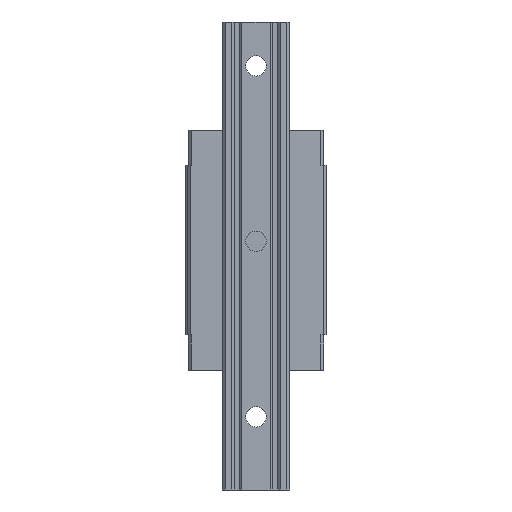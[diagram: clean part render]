
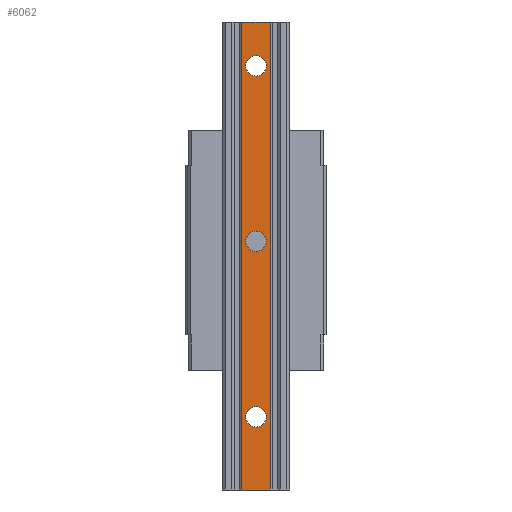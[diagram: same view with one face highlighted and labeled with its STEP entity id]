
A CAD part, front view. The second image highlights one B-rep face of the part: STEP entity #6062.
In plain terms, the highlighted planar face has unit normal (0, -1, 0).
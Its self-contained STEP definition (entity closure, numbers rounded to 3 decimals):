
#1564 = DIRECTION ( 'NONE',  ( 0., 0., -1. ) ) ;
#1723 = CARTESIAN_POINT ( 'NONE',  ( 0., 0., -15. ) ) ;
#1875 = CIRCLE ( 'NONE', #32925, 3.5 ) ;
#1886 = DIRECTION ( 'NONE',  ( 0., 1., 0. ) ) ;
#1894 = DIRECTION ( 'NONE',  ( 0., 1., 0. ) ) ;
#1962 = ORIENTED_EDGE ( 'NONE', *, *, #6837, .T. ) ;
#2737 = VERTEX_POINT ( 'NONE', #28780 ) ;
#2902 = LINE ( 'NONE', #8914, #3353 ) ;
#2904 = LINE ( 'NONE', #19501, #13066 ) ;
#3353 = VECTOR ( 'NONE', #6238, 1000. ) ;
#3800 = EDGE_CURVE ( 'NONE', #19065, #29581, #2902, .T. ) ;
#4192 = EDGE_LOOP ( 'NONE', ( #12989, #32254 ) ) ;
#4311 = EDGE_CURVE ( 'NONE', #15871, #28291, #14033, .T. ) ;
#4351 = CARTESIAN_POINT ( 'NONE',  ( 4.929, 0., -901.828 ) ) ;
#4678 = LINE ( 'NONE', #4351, #28873 ) ;
#4704 = EDGE_LOOP ( 'NONE', ( #1962, #27582 ) ) ;
#5040 = DIRECTION ( 'NONE',  ( 0., -1., 0. ) ) ;
#6062 = ADVANCED_FACE ( 'NONE', ( #34049, #29082, #17795, #18113 ), #31552, .T. ) ;
#6238 = DIRECTION ( 'NONE',  ( -1., 0., 0. ) ) ;
#6837 = EDGE_CURVE ( 'NONE', #28291, #15871, #8735, .T. ) ;
#7196 = DIRECTION ( 'NONE',  ( 0., 0., 1. ) ) ;
#7313 = EDGE_CURVE ( 'NONE', #25702, #23130, #10740, .T. ) ;
#7535 = CARTESIAN_POINT ( 'NONE',  ( 0., 0., -18.5 ) ) ;
#7967 = CARTESIAN_POINT ( 'NONE',  ( 0., 0., -135. ) ) ;
#8388 = EDGE_CURVE ( 'NONE', #2737, #23252, #1875, .T. ) ;
#8679 = EDGE_LOOP ( 'NONE', ( #18875, #11400, #16203, #24562 ) ) ;
#8735 = CIRCLE ( 'NONE', #25682, 3.5 ) ;
#8914 = CARTESIAN_POINT ( 'NONE',  ( 11.5, 0., 0. ) ) ;
#9653 = CARTESIAN_POINT ( 'NONE',  ( 0., 0., -75. ) ) ;
#10740 = LINE ( 'NONE', #21464, #13322 ) ;
#10792 = DIRECTION ( 'NONE',  ( 0., 0., 1. ) ) ;
#11029 = EDGE_CURVE ( 'NONE', #19150, #21947, #21491, .T. ) ;
#11400 = ORIENTED_EDGE ( 'NONE', *, *, #3800, .T. ) ;
#11473 = CARTESIAN_POINT ( 'NONE',  ( 0., 0., -131.5 ) ) ;
#11847 = CARTESIAN_POINT ( 'NONE',  ( -4.929, 0., -160. ) ) ;
#12073 = AXIS2_PLACEMENT_3D ( 'NONE', #29245, #5040, #1564 ) ;
#12797 = AXIS2_PLACEMENT_3D ( 'NONE', #1723, #1894, #20112 ) ;
#12989 = ORIENTED_EDGE ( 'NONE', *, *, #8388, .T. ) ;
#13066 = VECTOR ( 'NONE', #19296, 1000. ) ;
#13322 = VECTOR ( 'NONE', #29632, 1000. ) ;
#14033 = CIRCLE ( 'NONE', #34370, 3.5 ) ;
#15054 = EDGE_CURVE ( 'NONE', #29581, #25702, #2904, .T. ) ;
#15680 = CARTESIAN_POINT ( 'NONE',  ( 0., 0., -75. ) ) ;
#15871 = VERTEX_POINT ( 'NONE', #18598 ) ;
#16203 = ORIENTED_EDGE ( 'NONE', *, *, #15054, .T. ) ;
#16595 = CARTESIAN_POINT ( 'NONE',  ( -4.929, 0., 0. ) ) ;
#17037 = AXIS2_PLACEMENT_3D ( 'NONE', #18296, #20943, #31721 ) ;
#17795 = FACE_BOUND ( 'NONE', #4704, .T. ) ;
#17801 = DIRECTION ( 'NONE',  ( 0., 0., 1. ) ) ;
#18113 = FACE_OUTER_BOUND ( 'NONE', #8679, .T. ) ;
#18296 = CARTESIAN_POINT ( 'NONE',  ( 0., 0., -15. ) ) ;
#18353 = CARTESIAN_POINT ( 'NONE',  ( 0., 0., -135. ) ) ;
#18598 = CARTESIAN_POINT ( 'NONE',  ( 0., 0., -138.5 ) ) ;
#18875 = ORIENTED_EDGE ( 'NONE', *, *, #32119, .T. ) ;
#19065 = VERTEX_POINT ( 'NONE', #19583 ) ;
#19150 = VERTEX_POINT ( 'NONE', #7535 ) ;
#19296 = DIRECTION ( 'NONE',  ( 0., 0., -1. ) ) ;
#19395 = EDGE_LOOP ( 'NONE', ( #31534, #23046 ) ) ;
#19501 = CARTESIAN_POINT ( 'NONE',  ( -4.929, 0., -901.828 ) ) ;
#19583 = CARTESIAN_POINT ( 'NONE',  ( 4.929, 0., 0. ) ) ;
#19776 = CIRCLE ( 'NONE', #29939, 3.5 ) ;
#20112 = DIRECTION ( 'NONE',  ( 0., 0., 1. ) ) ;
#20700 = EDGE_CURVE ( 'NONE', #23252, #2737, #19776, .T. ) ;
#20943 = DIRECTION ( 'NONE',  ( 0., 1., 0. ) ) ;
#21464 = CARTESIAN_POINT ( 'NONE',  ( -11.5, 0., -160. ) ) ;
#21491 = CIRCLE ( 'NONE', #17037, 3.5 ) ;
#21527 = CARTESIAN_POINT ( 'NONE',  ( 0., 0., -11.5 ) ) ;
#21947 = VERTEX_POINT ( 'NONE', #21527 ) ;
#23046 = ORIENTED_EDGE ( 'NONE', *, *, #11029, .T. ) ;
#23130 = VERTEX_POINT ( 'NONE', #33581 ) ;
#23252 = VERTEX_POINT ( 'NONE', #23792 ) ;
#23792 = CARTESIAN_POINT ( 'NONE',  ( 0., 0., -78.5 ) ) ;
#23815 = DIRECTION ( 'NONE',  ( 0., 1., 0. ) ) ;
#24562 = ORIENTED_EDGE ( 'NONE', *, *, #7313, .T. ) ;
#25682 = AXIS2_PLACEMENT_3D ( 'NONE', #18353, #23815, #28790 ) ;
#25702 = VERTEX_POINT ( 'NONE', #11847 ) ;
#27582 = ORIENTED_EDGE ( 'NONE', *, *, #4311, .T. ) ;
#28291 = VERTEX_POINT ( 'NONE', #11473 ) ;
#28780 = CARTESIAN_POINT ( 'NONE',  ( 0., 0., -71.5 ) ) ;
#28790 = DIRECTION ( 'NONE',  ( 0., 0., 1. ) ) ;
#28873 = VECTOR ( 'NONE', #7196, 1000. ) ;
#29082 = FACE_BOUND ( 'NONE', #4192, .T. ) ;
#29245 = CARTESIAN_POINT ( 'NONE',  ( -11.5, 0., -901.828 ) ) ;
#29499 = DIRECTION ( 'NONE',  ( 0., 1., 0. ) ) ;
#29581 = VERTEX_POINT ( 'NONE', #16595 ) ;
#29632 = DIRECTION ( 'NONE',  ( 1., 0., 0. ) ) ;
#29939 = AXIS2_PLACEMENT_3D ( 'NONE', #9653, #30886, #33711 ) ;
#30886 = DIRECTION ( 'NONE',  ( 0., 1., 0. ) ) ;
#31395 = CIRCLE ( 'NONE', #12797, 3.5 ) ;
#31534 = ORIENTED_EDGE ( 'NONE', *, *, #34498, .T. ) ;
#31552 = PLANE ( 'NONE',  #12073 ) ;
#31721 = DIRECTION ( 'NONE',  ( 0., 0., 1. ) ) ;
#32119 = EDGE_CURVE ( 'NONE', #23130, #19065, #4678, .T. ) ;
#32254 = ORIENTED_EDGE ( 'NONE', *, *, #20700, .T. ) ;
#32925 = AXIS2_PLACEMENT_3D ( 'NONE', #15680, #1886, #17801 ) ;
#33581 = CARTESIAN_POINT ( 'NONE',  ( 4.929, 0., -160. ) ) ;
#33711 = DIRECTION ( 'NONE',  ( 0., 0., 1. ) ) ;
#34049 = FACE_BOUND ( 'NONE', #19395, .T. ) ;
#34370 = AXIS2_PLACEMENT_3D ( 'NONE', #7967, #29499, #10792 ) ;
#34498 = EDGE_CURVE ( 'NONE', #21947, #19150, #31395, .T. ) ;
